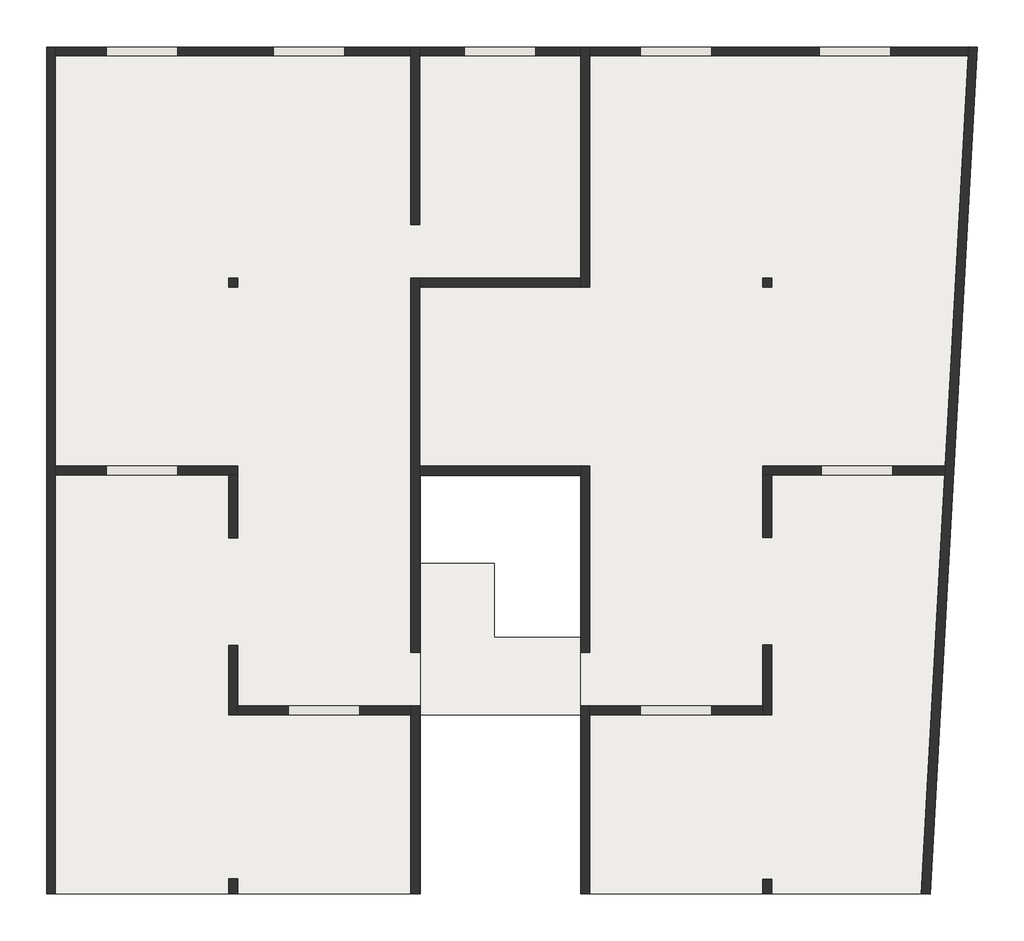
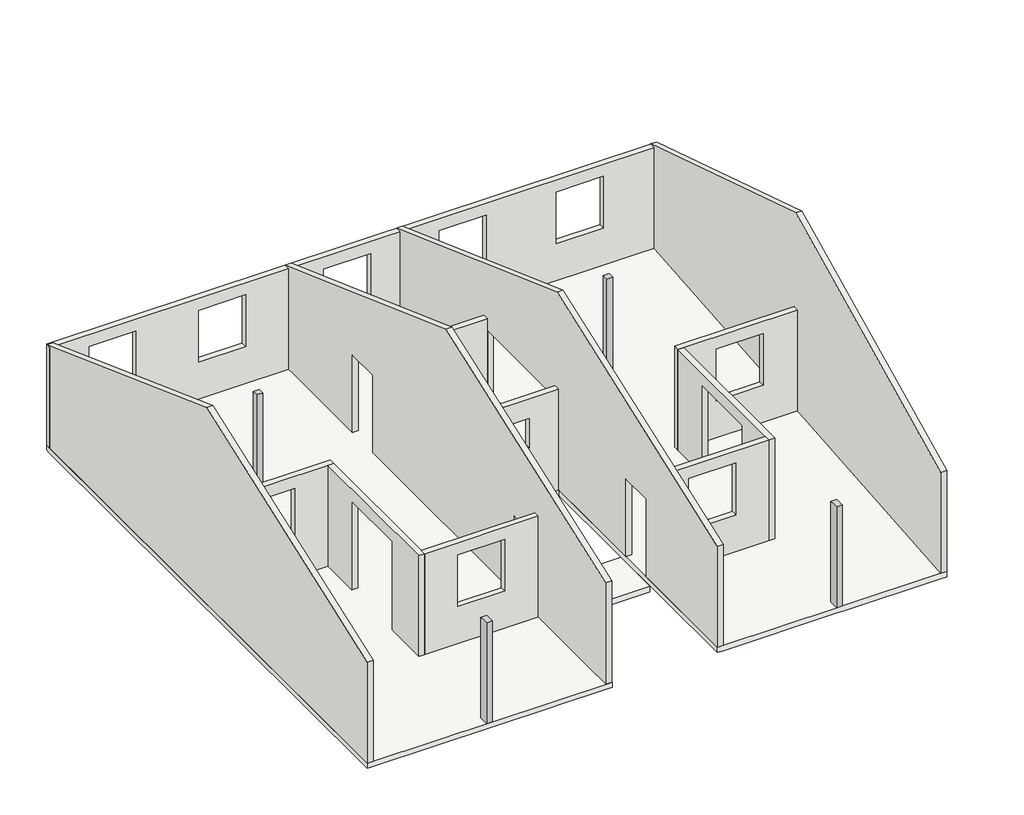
# One storey: 13 walls, 4 columns, 2 slabs.
"""IFC4 building model written with IfcOpenShell, lengths in millimetres."""

from ifc_helpers import new_model, si_unit, origin, place, context, project, spatial, faceted_brep, element, save

model = new_model("IFC4")

# Units and contexts
model_context = context("Model", 3, world=origin())
ifc_project = project(units=[si_unit("LENGTHUNIT", "METRE", prefix="MILLI")], contexts=[model_context])

# Site, building, storey
site = spatial("IfcSite", under=ifc_project)
building = spatial("IfcBuilding", under=site)
storey = spatial("IfcBuildingStorey", under=building, Name="3ème niveau", Elevation=2770.0)

# Columns
placement = place(None, origin())
element("IfcColumn", 1, ObjectType="Béton - Rectangulaire - Poteau : 15 x 15", at=placement, inside=storey, context=model_context, shape_type="Brep", body=[
    faceted_brep([(4870.5726427, 2391.7111972, 5500.0), (4720.5726427, 2391.7111972, 5500.0), (4720.5726427, 2241.7111972, 5500.0), (4870.5726427, 2241.7111972, 5500.0), (4870.5726427, 2391.7111972, 2770.0), (4870.5726427, 2241.7111972, 2770.0), (4720.5726427, 2241.7111972, 2770.0), (4720.5726427, 2391.7111972, 2770.0), (4870.5726427, 2391.7111972, 5200.0), (4720.5726427, 2391.7111972, 5200.0), (4720.5726427, 2241.7111972, 5200.0), (4870.5726427, 2241.7111972, 5200.0)], [[[0, 1, 2, 3]], [[4, 5, 6, 7]], [[1, 0, 8, 4, 7, 9]], [[2, 1, 9, 7, 6, 10]], [[3, 2, 10, 6, 5, 11]], [[0, 3, 11, 5, 4, 8]]]),
])
element("IfcColumn", 2, ObjectType="Béton - Rectangulaire - Poteau : 15 x 15", at=placement, inside=storey, context=model_context, shape_type="Brep", body=[
    faceted_brep([(-4080.0228675, 2391.7111972, 5500.0), (-4230.0228675, 2391.7111972, 5500.0), (-4230.0228675, 2241.7111972, 5500.0), (-4080.0228675, 2241.7111972, 5500.0), (-4080.0228675, 2391.7111972, 2770.0), (-4080.0228675, 2241.7111972, 2770.0), (-4230.0228675, 2241.7111972, 2770.0), (-4230.0228675, 2391.7111972, 2770.0), (-4080.0228675, 2391.7111972, 5200.0), (-4230.0228675, 2391.7111972, 5200.0), (-4230.0228675, 2241.7111972, 5200.0), (-4080.0228675, 2241.7111972, 5200.0)], [[[0, 1, 2, 3]], [[4, 5, 6, 7]], [[1, 0, 8, 4, 7, 9]], [[2, 1, 9, 7, 6, 10]], [[3, 2, 10, 6, 5, 11]], [[0, 3, 11, 5, 4, 8]]]),
])
element("IfcColumn", 3, ObjectType="Béton - Rectangulaire - Poteau : 15 x 25", at=placement, inside=storey, context=model_context, shape_type="Brep", body=[
    faceted_brep([(4870.5726427, -7684.0839446, 5500.0), (4720.5726427, -7684.0839446, 5500.0), (4720.5726427, -7783.2888028, 5500.0), (4720.5726427, -7933.2888028, 5500.0), (4720.5726427, -7934.0839446, 5500.0), (4870.5726427, -7934.0839446, 5500.0), (4870.5726427, -7933.2888028, 5500.0), (4870.5726427, -7783.2888028, 5500.0), (4870.5726427, -7684.0839446, 2770.0), (4870.5726427, -7934.0839446, 2770.0), (4720.5726427, -7934.0839446, 2770.0), (4720.5726427, -7684.0839446, 2770.0)], [[[0, 1, 2, 3, 4, 5, 6, 7]], [[8, 9, 10, 11]], [[1, 0, 8, 11]], [[4, 3, 2, 1, 11, 10]], [[5, 4, 10, 9]], [[0, 7, 6, 5, 9, 8]]]),
])
element("IfcColumn", 4, ObjectType="Béton - Rectangulaire - Poteau : 15 x 25", at=placement, inside=storey, context=model_context, shape_type="Brep", body=[
    faceted_brep([(-4080.0228675, -7682.5195269, 5500.0), (-4230.0228675, -7682.5195269, 5500.0), (-4230.0228675, -7783.2888028, 5500.0), (-4230.0228675, -7932.5195269, 5500.0), (-4080.0228675, -7932.5195269, 5500.0), (-4080.0228675, -7783.2888028, 5500.0), (-4080.0228675, -7682.5195269, 2770.0), (-4080.0228675, -7932.5195269, 2770.0), (-4230.0228675, -7932.5195269, 2770.0), (-4230.0228675, -7682.5195269, 2770.0), (-4230.0228675, -7932.5195269, 5200.0), (-4080.0228675, -7932.5195269, 5200.0)], [[[0, 1, 2, 3, 4, 5]], [[6, 7, 8, 9]], [[1, 0, 6, 9]], [[3, 2, 1, 9, 8, 10]], [[4, 3, 10, 8, 7, 11]], [[0, 5, 4, 11, 7, 6]]]),
])

# Slabs
element("IfcSlab", 5, ObjectType="Générique  140 mm", at=placement, inside=storey, context=model_context, shape_type="Brep", body=[
    faceted_brep([(8319.9767141, 6266.7111972, 2630.0), (8311.6467221, 6116.7111972, 2630.0), (7531.5083265, -7931.4125381, 2630.0), (7375.5726427, -7931.4125381, 2630.0), (4870.5726427, -7931.4125381, 2630.0), (4720.5726427, -7931.4125381, 2630.0), (1819.9771325, -7931.4125381, 2630.0), (1669.9771325, -7931.4125381, 2630.0), (1669.9771325, -913.2888028, 2630.0), (-1020.0228675, -913.2888028, 2630.0), (-1020.0228675, -4783.2888028, 2630.0), (-1020.0228675, -4933.2888028, 2630.0), (-1020.0228675, -7933.2888028, 2630.0), (-1180.0228675, -7933.2888028, 2630.0), (-2380.0228675, -7933.2888028, 2630.0), (-2530.0228675, -7933.2888028, 2630.0), (-7125.0228675, -7933.2888028, 2630.0), (-7130.0228675, -7933.2888028, 2630.0), (-7280.0228675, -7933.2888028, 2630.0), (-7280.0228675, 6116.7111972, 2630.0), (-7280.0228675, 6266.7111972, 2630.0), (-1030.0228675, 6266.7111972, 2630.0), (1669.9771325, 6266.7111972, 2630.0), (1819.9771325, 6266.7111972, 2630.0), (8319.9767141, 6266.7111972, 2770.0), (1819.9771325, 6266.7111972, 2770.0), (1669.9771325, 6266.7111972, 2770.0), (-1030.0228675, 6266.7111972, 2770.0), (-1180.0228675, 6266.7111972, 2770.0), (-7130.0228675, 6266.7111972, 2770.0), (-7280.0228675, 6266.7111972, 2770.0), (-7280.0228675, 6116.7111972, 2770.0), (-7280.0228675, -7933.2888028, 2770.0), (-7130.0228675, -7933.2888028, 2770.0), (-1020.0228675, -7933.2888028, 2770.0), (-1020.0228675, -4933.2888028, 2770.0), (-1020.0228675, -4783.2888028, 2770.0), (-1020.0228675, -913.2888028, 2770.0), (1669.9771325, -913.2888028, 2770.0), (1669.9771325, -3883.2888028, 2770.0), (1669.9771325, -4783.2888028, 2770.0), (1669.9771325, -7931.4125381, 2770.0), (1819.9771325, -7931.4125381, 2770.0), (4720.5726427, -7931.4125381, 2770.0), (4870.5726427, -7931.4125381, 2770.0), (7375.5726427, -7931.4125381, 2770.0), (7531.5083265, -7931.4125381, 2770.0), (8311.6467221, 6116.7111972, 2770.0)], [[[0, 1, 2, 3, 4, 5, 6, 7, 8, 9, 10, 11, 12, 13, 14, 15, 16, 17, 18, 19, 20, 21, 22, 23]], [[24, 25, 26, 27, 28, 29, 30, 31, 32, 33, 34, 35, 36, 37, 38, 39, 40, 41, 42, 43, 44, 45, 46, 47]], [[2, 1, 0, 24, 47, 46]], [[7, 6, 5, 4, 3, 2, 46, 45, 44, 43, 42, 41]], [[8, 7, 41, 40, 39, 38]], [[9, 8, 38, 37]], [[12, 11, 10, 9, 37, 36, 35, 34]], [[18, 17, 16, 15, 14, 13, 12, 34, 33, 32]], [[20, 19, 18, 32, 31, 30]], [[0, 23, 22, 21, 20, 30, 29, 28, 27, 26, 25, 24]]]),
])
element("IfcSlab", 6, ObjectType="Générique  140 mm", at=placement, inside=storey, context=model_context, shape_type="Brep", body=[
    faceted_brep([(-1020.0228675, -2388.6350425, 2455.0), (219.9771325, -2388.6350425, 2455.0), (219.9771325, -3633.2888028, 2455.0), (1679.9771325, -3633.2888028, 2455.0), (1679.9771325, -4933.2888028, 2455.0), (-1020.0228675, -4933.2888028, 2455.0), (-1020.0228675, -4783.2888028, 2455.0), (-1020.0228675, -3784.9362614, 2455.0), (-1020.0228675, -3634.9362614, 2455.0), (-1020.0228675, -2388.6350425, 2595.0), (-1020.0228675, -3634.9362614, 2595.0), (-1020.0228675, -3784.9362614, 2595.0), (-1020.0228675, -4783.2888028, 2595.0), (-1020.0228675, -4933.2888028, 2595.0), (1669.9771325, -4933.2888028, 2595.0), (1679.9771325, -4933.2888028, 2595.0), (1679.9771325, -3633.2888028, 2595.0), (219.9771325, -3633.2888028, 2595.0), (219.9771325, -2388.6350425, 2595.0)], [[[0, 1, 2, 3, 4, 5, 6, 7, 8]], [[9, 10, 11, 12, 13, 14, 15, 16, 17, 18]], [[1, 0, 9, 18]], [[2, 1, 18, 17]], [[3, 2, 17, 16]], [[4, 3, 16, 15]], [[5, 4, 15, 14, 13]], [[0, 8, 7, 6, 5, 13, 12, 11, 10, 9]]]),
])

# Walls
element("IfcWall", 7, ObjectType="Générique - 150 mm", at=placement, inside=storey, context=model_context, shape_type="Brep", body=[
    faceted_brep([(-7280.0228675, 6116.7111972, 2770.0), (8311.6467221, 6116.7111972, 2770.0), (8311.6467221, 6116.7111972, 5500.0), (-7280.0228675, 6116.7111972, 5500.0), (-6280.0228675, 6116.7111972, 5170.0), (-5080.0228675, 6116.7111972, 5170.0), (-5080.0228675, 6116.7111972, 3770.0), (-6280.0228675, 6116.7111972, 3770.0), (-2280.0228675, 6116.7111972, 5170.0), (-2280.0228675, 6116.7111972, 3770.0), (-3480.0228675, 6116.7111972, 3770.0), (-3480.0228675, 6116.7111972, 5170.0), (-280.0228675, 6116.7111972, 5170.0), (919.9771325, 6116.7111972, 5170.0), (919.9771325, 6116.7111972, 3770.0), (-280.0228675, 6116.7111972, 3770.0), (3869.9771325, 6116.7111972, 5170.0), (3869.9771325, 6116.7111972, 3770.0), (2669.9771325, 6116.7111972, 3770.0), (2669.9771325, 6116.7111972, 5170.0), (5669.9771325, 6116.7111972, 5170.0), (6869.9771325, 6116.7111972, 5170.0), (6869.9771325, 6116.7111972, 3770.0), (5669.9771325, 6116.7111972, 3770.0), (-7280.0228675, 6266.7111972, 2770.0), (-7280.0228675, 6266.7111972, 5500.0), (8319.9767141, 6266.7111972, 5500.0), (8319.9767141, 6266.7111972, 2770.0), (-6280.0228675, 6266.7111972, 5170.0), (-6280.0228675, 6266.7111972, 3770.0), (-5080.0228675, 6266.7111972, 3770.0), (-5080.0228675, 6266.7111972, 5170.0), (-2280.0228675, 6266.7111972, 5170.0), (-3480.0228675, 6266.7111972, 5170.0), (-3480.0228675, 6266.7111972, 3770.0), (-2280.0228675, 6266.7111972, 3770.0), (-280.0228675, 6266.7111972, 5170.0), (-280.0228675, 6266.7111972, 3770.0), (919.9771325, 6266.7111972, 3770.0), (919.9771325, 6266.7111972, 5170.0), (3869.9771325, 6266.7111972, 5170.0), (2669.9771325, 6266.7111972, 5170.0), (2669.9771325, 6266.7111972, 3770.0), (3869.9771325, 6266.7111972, 3770.0), (5669.9771325, 6266.7111972, 5170.0), (5669.9771325, 6266.7111972, 3770.0), (6869.9771325, 6266.7111972, 3770.0), (6869.9771325, 6266.7111972, 5170.0)], [[[0, 1, 2, 3], [4, 5, 6, 7], [8, 9, 10, 11], [12, 13, 14, 15], [16, 17, 18, 19], [20, 21, 22, 23]], [[24, 25, 26, 27], [28, 29, 30, 31], [32, 33, 34, 35], [36, 37, 38, 39], [40, 41, 42, 43], [44, 45, 46, 47]], [[1, 0, 24, 27]], [[3, 2, 26, 25]], [[0, 3, 25, 24]], [[29, 28, 4, 7]], [[30, 29, 7, 6]], [[31, 30, 6, 5]], [[28, 31, 5, 4]], [[9, 8, 32, 35]], [[10, 9, 35, 34]], [[11, 10, 34, 33]], [[8, 11, 33, 32]], [[37, 36, 12, 15]], [[38, 37, 15, 14]], [[39, 38, 14, 13]], [[36, 39, 13, 12]], [[17, 16, 40, 43]], [[18, 17, 43, 42]], [[19, 18, 42, 41]], [[16, 19, 41, 40]], [[45, 44, 20, 23]], [[46, 45, 23, 22]], [[47, 46, 22, 21]], [[44, 47, 21, 20]], [[2, 1, 27, 26]]]),
])
element("IfcWall", 8, ObjectType="Générique - 150 mm", at=placement, inside=storey, context=model_context, shape_type="Brep", body=[
    faceted_brep([(7381.5081487, -7927.2539495, 2770.0), (7381.5081487, -7927.2539495, 5500.0), (7775.7277025, -828.4557082, 8078.0475489), (8170.2074764, 6275.0283743, 5500.0), (8170.2074764, 6275.0283743, 2770.0), (7779.6243009, -758.2888028, 2770.0), (7771.2943089, -908.2888028, 2770.0), (7531.2773864, -7935.5711266, 2770.0), (7531.5083265, -7931.4125381, 2770.0), (8319.9767141, 6266.7111972, 2770.0), (8319.9767141, 6266.7111972, 5500.0), (7925.4969402, -836.7728853, 8078.0475489), (7531.2773864, -7935.5711266, 5500.0)], [[[0, 1, 2, 3, 4, 5, 6]], [[7, 8, 9, 10, 11, 12]], [[0, 6, 5, 4, 9, 8, 7]], [[1, 0, 7, 12]], [[4, 3, 10, 9]], [[2, 1, 12, 11]], [[3, 2, 11, 10]]]),
])
element("IfcWall", 9, ObjectType="Générique - 150 mm", at=placement, inside=storey, context=model_context, shape_type="Brep", body=[
    faceted_brep([(7779.6243009, -758.2888028, 2770.0), (4720.5726427, -758.2888028, 2770.0), (4720.5726427, -758.2888028, 5500.0), (7779.6243009, -758.2888028, 5500.0), (5700.5726427, -758.2888028, 5170.0), (5700.5726427, -758.2888028, 3770.0), (6900.5726427, -758.2888028, 3770.0), (6900.5726427, -758.2888028, 5170.0), (7771.2943089, -908.2888028, 2770.0), (7771.2943089, -908.2888028, 5500.0), (4870.5726427, -908.2888028, 5500.0), (4720.5726427, -908.2888028, 5500.0), (4720.5726427, -908.2888028, 2770.0), (4870.5726427, -908.2888028, 2770.0), (5700.5726427, -908.2888028, 5170.0), (6900.5726427, -908.2888028, 5170.0), (6900.5726427, -908.2888028, 3770.0), (5700.5726427, -908.2888028, 3770.0)], [[[0, 1, 2, 3], [4, 5, 6, 7]], [[8, 9, 10, 11, 12, 13], [14, 15, 16, 17]], [[1, 0, 8, 13, 12]], [[3, 2, 11, 10, 9]], [[0, 3, 9, 8]], [[2, 1, 12, 11]], [[5, 4, 14, 17]], [[6, 5, 17, 16]], [[7, 6, 16, 15]], [[4, 7, 15, 14]]]),
])
element("IfcWall", 10, ObjectType="Générique - 150 mm", at=placement, inside=storey, context=model_context, shape_type="Brep", body=[
    faceted_brep([(4720.5726427, -3758.2888028, 5170.0), (4720.5726427, -3758.2888028, 2770.0), (4720.5726427, -4783.2888028, 2770.0), (4720.5726427, -4933.2888028, 2770.0), (4720.5726427, -4933.2888028, 5500.0), (4720.5726427, -4783.2888028, 5500.0), (4720.5726427, -908.2888028, 5500.0), (4720.5726427, -908.2888028, 2770.0), (4720.5726427, -1958.2888028, 2770.0), (4720.5726427, -1958.2888028, 5170.0), (4870.5726427, -4933.2888028, 2770.0), (4870.5726427, -3758.2888028, 2770.0), (4870.5726427, -3758.2888028, 5170.0), (4870.5726427, -1958.2888028, 5170.0), (4870.5726427, -1958.2888028, 2770.0), (4870.5726427, -908.2888028, 2770.0), (4870.5726427, -908.2888028, 5500.0), (4870.5726427, -4933.2888028, 5500.0)], [[[0, 1, 2, 3, 4, 5, 6, 7, 8, 9]], [[10, 11, 12, 13, 14, 15, 16, 17]], [[8, 7, 15, 14]], [[3, 2, 1, 11, 10]], [[6, 5, 4, 17, 16]], [[7, 6, 16, 15]], [[4, 3, 10, 17]], [[14, 13, 9, 8]], [[12, 11, 1, 0]], [[13, 12, 0, 9]]]),
])
element("IfcWall", 11, ObjectType="Générique - 150 mm", at=placement, inside=storey, context=model_context, shape_type="Brep", body=[
    faceted_brep([(4720.5726427, -4783.2888028, 2770.0), (1819.9771325, -4783.2888028, 2770.0), (1819.9771325, -4783.2888028, 4870.0), (1819.9771325, -4783.2888028, 5500.0), (4720.5726427, -4783.2888028, 5500.0), (2669.9771325, -4783.2888028, 5170.0), (2669.9771325, -4783.2888028, 3770.0), (3869.9771325, -4783.2888028, 3770.0), (3869.9771325, -4783.2888028, 5170.0), (4720.5726427, -4933.2888028, 2770.0), (4720.5726427, -4933.2888028, 5500.0), (1819.9771325, -4933.2888028, 5500.0), (1819.9771325, -4933.2888028, 2770.0), (2669.9771325, -4933.2888028, 5170.0), (3869.9771325, -4933.2888028, 5170.0), (3869.9771325, -4933.2888028, 3770.0), (2669.9771325, -4933.2888028, 3770.0)], [[[0, 1, 2, 3, 4], [5, 6, 7, 8]], [[9, 10, 11, 12], [13, 14, 15, 16]], [[1, 0, 9, 12]], [[4, 3, 11, 10]], [[0, 4, 10, 9]], [[3, 2, 1, 12, 11]], [[6, 5, 13, 16]], [[7, 6, 16, 15]], [[8, 7, 15, 14]], [[5, 8, 14, 13]]]),
])
element("IfcWall", 12, ObjectType="Générique - 150 mm", at=placement, inside=storey, context=model_context, shape_type="Brep", body=[
    faceted_brep([(-7280.0228675, -7933.2888028, 2770.0), (-7280.0228675, -7933.2888028, 5500.0779569), (-7280.0228675, -833.2888028, 8088.2483009), (-7280.0228675, 6266.7111972, 5490.0), (-7280.0228675, 6266.7111972, 2770.0), (-7130.0228675, -7933.2888028, 2770.0), (-7130.0228675, -908.2888028, 2770.0), (-7130.0228675, -758.2888028, 2770.0), (-7130.0228675, 6266.7111972, 2770.0), (-7130.0228675, 6266.7111972, 5490.0), (-7130.0228675, -833.2888028, 8088.2483009), (-7130.0228675, -7933.2888028, 5500.0779569)], [[[0, 1, 2, 3, 4]], [[5, 6, 7, 8, 9, 10, 11]], [[0, 4, 8, 7, 6, 5]], [[1, 0, 5, 11]], [[2, 1, 11, 10]], [[3, 2, 10, 9]], [[4, 3, 9, 8]]]),
])
element("IfcWall", 13, ObjectType="Générique - 150 mm", at=placement, inside=storey, context=model_context, shape_type="Brep", body=[
    faceted_brep([(-7130.0228675, -908.2888028, 2770.0), (-4230.0228675, -908.2888028, 2770.0), (-4080.0228675, -908.2888028, 2770.0), (-4080.0228675, -908.2888028, 5500.0), (-4230.0228675, -908.2888028, 5500.0), (-7130.0228675, -908.2888028, 5500.0), (-6280.0228675, -908.2888028, 5170.0), (-5080.0228675, -908.2888028, 5170.0), (-5080.0228675, -908.2888028, 3770.0), (-6280.0228675, -908.2888028, 3770.0), (-7130.0228675, -758.2888028, 2770.0), (-7130.0228675, -758.2888028, 5500.0), (-4080.0228675, -758.2888028, 5500.0), (-4080.0228675, -758.2888028, 2770.0), (-6280.0228675, -758.2888028, 5170.0), (-6280.0228675, -758.2888028, 3770.0), (-5080.0228675, -758.2888028, 3770.0), (-5080.0228675, -758.2888028, 5170.0)], [[[0, 1, 2, 3, 4, 5], [6, 7, 8, 9]], [[10, 11, 12, 13], [14, 15, 16, 17]], [[2, 1, 0, 10, 13]], [[5, 4, 3, 12, 11]], [[0, 5, 11, 10]], [[3, 2, 13, 12]], [[15, 14, 6, 9]], [[16, 15, 9, 8]], [[17, 16, 8, 7]], [[14, 17, 7, 6]]]),
])
element("IfcWall", 14, ObjectType="Générique - 150 mm", at=placement, inside=storey, context=model_context, shape_type="Brep", body=[
    faceted_brep([(-4230.0228675, -908.2888028, 2770.0), (-4230.0228675, -1963.2888028, 2770.0), (-4230.0228675, -1963.2888028, 5170.0), (-4230.0228675, -3763.2888028, 5170.0), (-4230.0228675, -3763.2888028, 2770.0), (-4230.0228675, -4933.2888028, 2770.0), (-4230.0228675, -4933.2888028, 5500.0), (-4230.0228675, -908.2888028, 5500.0), (-4080.0228675, -1963.2888028, 5170.0), (-4080.0228675, -1963.2888028, 2770.0), (-4080.0228675, -908.2888028, 2770.0), (-4080.0228675, -908.2888028, 5500.0), (-4080.0228675, -4783.2888028, 5500.0), (-4080.0228675, -4933.2888028, 5500.0), (-4080.0228675, -4933.2888028, 2770.0), (-4080.0228675, -4783.2888028, 2770.0), (-4080.0228675, -3763.2888028, 2770.0), (-4080.0228675, -3763.2888028, 5170.0)], [[[0, 1, 2, 3, 4, 5, 6, 7]], [[8, 9, 10, 11, 12, 13, 14, 15, 16, 17]], [[10, 9, 1, 0]], [[16, 15, 14, 5, 4]], [[7, 6, 13, 12, 11]], [[0, 7, 11, 10]], [[6, 5, 14, 13]], [[4, 3, 17, 16]], [[2, 1, 9, 8]], [[3, 2, 8, 17]]]),
])
element("IfcWall", 15, ObjectType="Générique - 150 mm", at=placement, inside=storey, context=model_context, shape_type="Brep", body=[
    faceted_brep([(-4080.0228675, -4933.2888028, 2770.0), (-2370.0228675, -4933.2888028, 2770.0), (-1180.0228675, -4933.2888028, 2770.0), (-1180.0228675, -4933.2888028, 5500.0), (-4080.0228675, -4933.2888028, 5500.0), (-2030.0228675, -4933.2888028, 5170.0), (-2030.0228675, -4933.2888028, 3770.0), (-3230.0228675, -4933.2888028, 3770.0), (-3230.0228675, -4933.2888028, 5170.0), (-4080.0228675, -4783.2888028, 2770.0), (-4080.0228675, -4783.2888028, 5500.0), (-1180.0228675, -4783.2888028, 5500.0), (-1180.0228675, -4783.2888028, 4870.0), (-1180.0228675, -4783.2888028, 2770.0), (-2370.0228675, -4783.2888028, 2770.0), (-2030.0228675, -4783.2888028, 5170.0), (-3230.0228675, -4783.2888028, 5170.0), (-3230.0228675, -4783.2888028, 3770.0), (-2030.0228675, -4783.2888028, 3770.0)], [[[0, 1, 2, 3, 4], [5, 6, 7, 8]], [[9, 10, 11, 12, 13, 14], [15, 16, 17, 18]], [[2, 1, 0, 9, 14, 13]], [[4, 3, 11, 10]], [[0, 4, 10, 9]], [[3, 2, 13, 12, 11]], [[6, 5, 15, 18]], [[7, 6, 18, 17]], [[8, 7, 17, 16]], [[5, 8, 16, 15]]]),
])
element("IfcWall", 16, ObjectType="Générique - 150 mm", at=placement, inside=storey, context=model_context, shape_type="Brep", body=[
    faceted_brep([(-1030.0228675, -7927.2539495, 2770.0), (-1030.0228675, -4783.2888028, 2770.0), (-1030.0228675, -4783.2888028, 4870.0), (-1030.0228675, -3883.2888028, 4870.0), (-1030.0228675, -3883.2888028, 2770.0), (-1030.0228675, -908.2888028, 2770.0), (-1030.0228675, -758.2888028, 2770.0), (-1030.0228675, 2241.7111972, 2770.0), (-1030.0228675, 2391.7111972, 2770.0), (-1030.0228675, 2391.7111972, 4870.0), (-1030.0228675, 3291.7111972, 4870.0), (-1030.0228675, 3291.7111972, 2770.0), (-1030.0228675, 6266.7111972, 2770.0), (-1030.0228675, 6266.7111972, 5500.0), (-1030.0228675, -844.659083, 8086.4852329), (-1030.0228675, -7927.2539495, 5504.6596002), (-1180.0228675, -4783.2888028, 4870.0), (-1180.0228675, -4783.2888028, 2770.0), (-1180.0228675, -4933.2888028, 2770.0), (-1180.0228675, -7927.2539495, 2770.0), (-1180.0228675, -7927.2539495, 5504.6596002), (-1180.0228675, -844.659083, 8086.4852329), (-1180.0228675, 6266.7111972, 5500.0), (-1180.0228675, 6266.7111972, 2770.0), (-1180.0228675, 3291.7111972, 2770.0), (-1180.0228675, 3291.7111972, 4870.0), (-1180.0228675, 2391.7111972, 4870.0), (-1180.0228675, 2391.7111972, 2770.0), (-1180.0228675, -3883.2888028, 2770.0), (-1180.0228675, -3883.2888028, 4870.0)], [[[0, 1, 2, 3, 4, 5, 6, 7, 8, 9, 10, 11, 12, 13, 14, 15]], [[16, 17, 18, 19, 20, 21, 22, 23, 24, 25, 26, 27, 28, 29]], [[24, 23, 12, 11]], [[28, 27, 8, 7, 6, 5, 4]], [[19, 18, 17, 1, 0]], [[15, 14, 21, 20]], [[11, 10, 25, 24]], [[9, 8, 27, 26]], [[10, 9, 26, 25]], [[4, 3, 29, 28]], [[2, 1, 17, 16]], [[3, 2, 16, 29]], [[0, 15, 20, 19]], [[13, 12, 23, 22]], [[14, 13, 22, 21]]]),
])
element("IfcWall", 17, ObjectType="Générique - 150 mm", at=placement, inside=storey, context=model_context, shape_type="Brep", body=[
    faceted_brep([(1669.9771325, -758.2888028, 5170.0), (1669.9771325, -758.2888028, 2770.0), (1669.9771325, -908.2888028, 2770.0), (1669.9771325, -913.2888028, 2770.0), (1669.9771325, -3883.2888028, 2770.0), (1669.9771325, -3883.2888028, 4870.0), (1669.9771325, -4783.2888028, 4870.0), (1669.9771325, -4783.2888028, 2770.0), (1669.9771325, -7931.4125381, 2770.0), (1669.9771325, -7931.4125381, 5503.1338931), (1669.9771325, -839.602167, 8078.6436798), (1669.9771325, 6266.7111972, 5499.5693076), (1669.9771325, 6266.7111972, 2770.0), (1669.9771325, 2391.7111972, 2770.0), (1669.9771325, 2241.7111972, 2770.0), (1669.9771325, 2241.7111972, 5170.0), (1819.9771325, -3883.2888028, 2770.0), (1819.9771325, -908.2888028, 2770.0), (1819.9771325, -758.2888028, 2770.0), (1819.9771325, -758.2888028, 5170.0), (1819.9771325, 2241.7111972, 5170.0), (1819.9771325, 2241.7111972, 2770.0), (1819.9771325, 6266.7111972, 2770.0), (1819.9771325, 6266.7111972, 5499.5693076), (1819.9771325, -839.602167, 8078.6436798), (1819.9771325, -7931.4125381, 5503.1338931), (1819.9771325, -7931.4125381, 2770.0), (1819.9771325, -4933.2888028, 2770.0), (1819.9771325, -4783.2888028, 2770.0), (1819.9771325, -4783.2888028, 4870.0), (1819.9771325, -3883.2888028, 4870.0)], [[[0, 1, 2, 3, 4, 5, 6, 7, 8, 9, 10, 11, 12, 13, 14, 15]], [[16, 17, 18, 19, 20, 21, 22, 23, 24, 25, 26, 27, 28, 29, 30]], [[14, 13, 12, 22, 21]], [[4, 3, 2, 1, 18, 17, 16]], [[8, 7, 28, 27, 26]], [[16, 30, 5, 4]], [[29, 28, 7, 6]], [[30, 29, 6, 5]], [[21, 20, 15, 14]], [[19, 18, 1, 0]], [[20, 19, 0, 15]], [[9, 8, 26, 25]], [[12, 11, 23, 22]], [[10, 9, 25, 24]], [[11, 10, 24, 23]]]),
])
element("IfcWall", 18, ObjectType="Générique - 150 mm", at=placement, inside=storey, context=model_context, shape_type="Brep", body=[
    faceted_brep([(1669.9771325, -758.2888028, 2770.0), (-1030.0228675, -758.2888028, 2770.0), (-1030.0228675, -758.2888028, 5500.0), (1669.9771325, -758.2888028, 5500.0), (1669.9771325, -758.2888028, 5170.0), (-280.0228675, -758.2888028, 4970.0), (-280.0228675, -758.2888028, 4170.0), (919.9771325, -758.2888028, 4170.0), (919.9771325, -758.2888028, 4970.0), (1669.9771325, -908.2888028, 2770.0), (1669.9771325, -908.2888028, 5130.0), (1669.9771325, -908.2888028, 5270.0), (1669.9771325, -908.2888028, 5500.0), (-1030.0228675, -908.2888028, 5500.0), (-1030.0228675, -908.2888028, 5270.0), (-1030.0228675, -908.2888028, 5130.0), (-1030.0228675, -908.2888028, 2770.0), (-280.0228675, -908.2888028, 4970.0), (919.9771325, -908.2888028, 4970.0), (919.9771325, -908.2888028, 4170.0), (-280.0228675, -908.2888028, 4170.0)], [[[0, 1, 2, 3, 4], [5, 6, 7, 8]], [[9, 10, 11, 12, 13, 14, 15, 16], [17, 18, 19, 20]], [[1, 0, 9, 16]], [[3, 2, 13, 12]], [[2, 1, 16, 15, 14, 13]], [[0, 4, 3, 12, 11, 10, 9]], [[6, 5, 17, 20]], [[7, 6, 20, 19]], [[8, 7, 19, 18]], [[5, 8, 18, 17]]]),
])
element("IfcWall", 19, ObjectType="Générique - 150 mm", at=placement, inside=storey, context=model_context, shape_type="Brep", body=[
    faceted_brep([(1669.9771325, 2391.7111972, 2770.0), (-1030.0228675, 2391.7111972, 2770.0), (-1030.0228675, 2391.7111972, 4870.0), (-1030.0228675, 2391.7111972, 5500.0), (1669.9771325, 2391.7111972, 5500.0), (1669.9771325, 2241.7111972, 2770.0), (1669.9771325, 2241.7111972, 5170.0), (1669.9771325, 2241.7111972, 5500.0), (-1030.0228675, 2241.7111972, 5500.0), (-1030.0228675, 2241.7111972, 2770.0)], [[[0, 1, 2, 3, 4]], [[5, 6, 7, 8, 9]], [[1, 0, 5, 9]], [[4, 3, 8, 7]], [[3, 2, 1, 9, 8]], [[0, 4, 7, 6, 5]]]),
])

save(model, "model.ifc")
